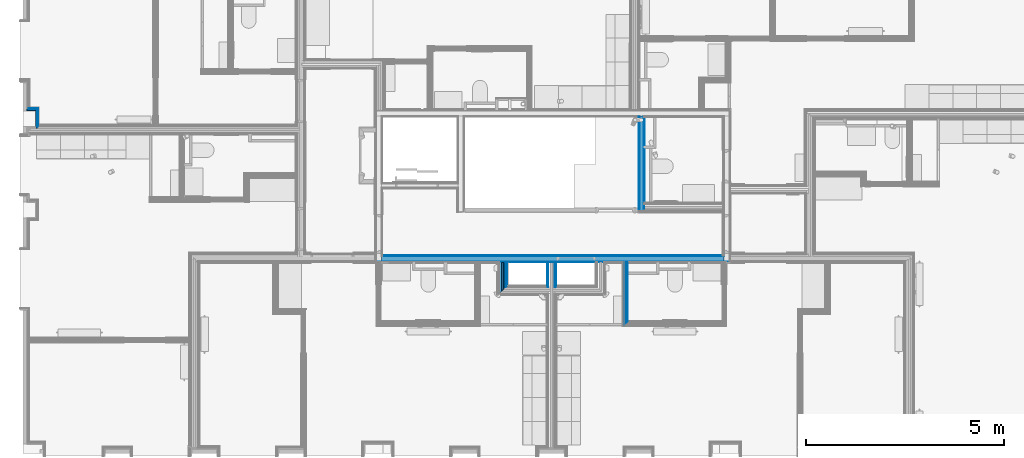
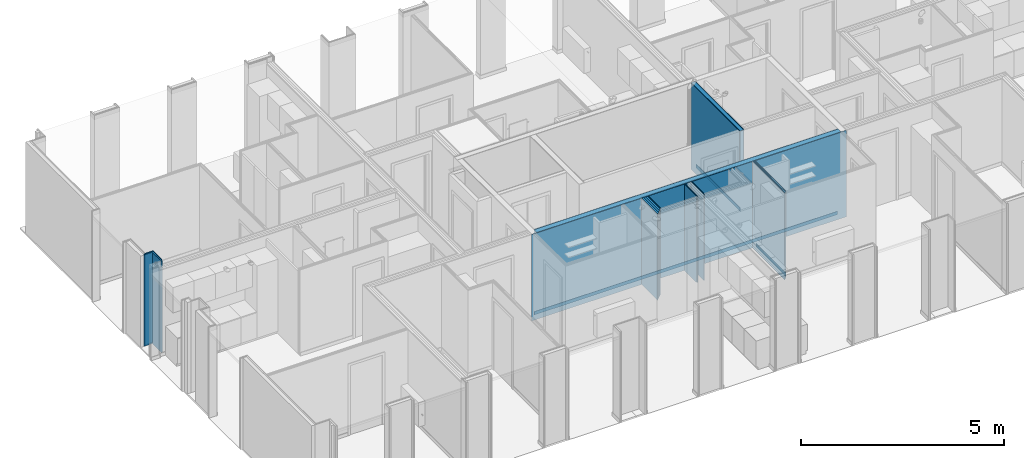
# One storey, part 11 of 85: 28 building element parts, 7 elements without a shape of their own.
"""IFC2X3 building model written with IfcOpenShell, lengths in metres."""

import ifcopenshell
import ifcopenshell.guid

model = None  # the IFC model being written
_history = None  # IfcOwnerHistory: only IFC2X3 demands one
_inside = {}  # id of a spatial element -> (the spatial element, [elements in it])
_under = {}  # id of a project, library or spatial element -> (it, [spatial elements below it])
_declared = {}  # id of a project -> (the project, [libraries it declares])
_typed = {}  # id of a type object -> (the type object, [elements of that type])
_made_of = {}  # id of a material, layer set ... -> (it, [elements and type objects made of it])


def new_model(schema):
    """Start an empty IFC model of exactly this schema.

    Asked for "IFC4X3", IfcOpenShell would pick the latest addendum, in which some entities
    have other attributes; the version numbers below select the first issue.
    IFC2X3 requires an IfcOwnerHistory on every rooted entity: one is made here for all.
    """
    global model, _history
    if schema == "IFC4X3":
        model = ifcopenshell.file(schema_version=(4, 3, 0, 0))
    else:
        model = ifcopenshell.file(schema=schema)
    _inside.clear()
    _under.clear()
    _declared.clear()
    _typed.clear()
    _made_of.clear()
    _history = None
    if model.schema == "IFC2X3":
        org = make("IfcOrganization", Name="unknown")
        user = make(
            "IfcPersonAndOrganization",
            ThePerson=make("IfcPerson", FamilyName="unknown"),
            TheOrganization=org,
        )
        app = make(
            "IfcApplication",
            ApplicationDeveloper=org,
            Version="unknown",
            ApplicationFullName="unknown",
            ApplicationIdentifier="unknown",
        )
        _history = make(
            "IfcOwnerHistory",
            OwningUser=user,
            OwningApplication=app,
            ChangeAction="ADDED",
            CreationDate=0,
        )
    return model


def make(cls, **values):
    """One entity of the class cls with the attributes given. An attribute that is None is left unset."""
    return model.create_entity(
        cls, **{name: value for name, value in values.items() if value is not None}
    )


def entity(cls, *values):
    """Any entity or typed value of the class cls, its attributes in the order of the schema. None: left unset."""
    e = model.create_entity(cls)
    for i, value in enumerate(values):
        if value is not None:
            e[i] = value
    return e


def rooted(cls, **values):
    """An entity with a GlobalId (a new one), such as an element, a storey or a relation."""
    return make(cls, GlobalId=ifcopenshell.guid.new(), OwnerHistory=_history, **values)


def si_unit(unit_type, name, prefix=None):
    """IfcSIUnit, for example si_unit("LENGTHUNIT", "METRE", prefix="MILLI")."""
    return make("IfcSIUnit", UnitType=unit_type, Prefix=prefix, Name=name)


def converted_unit(unit_type, name, factor, base, dimensions=None, offset=None):
    """IfcConversionBasedUnit, such as the inch: factor (a typed value) times the base unit."""
    return make(
        "IfcConversionBasedUnit"
        if offset is None
        else "IfcConversionBasedUnitWithOffset",
        ConversionOffset=offset,
        Dimensions=None
        if dimensions is None
        else entity("IfcDimensionalExponents", *dimensions),
        UnitType=unit_type,
        Name=name,
        ConversionFactor=make(
            "IfcMeasureWithUnit", ValueComponent=factor, UnitComponent=base
        ),
    )


def derived_unit(unit_type, elements):
    """IfcDerivedUnit: a product of units, each with its exponent."""
    return make(
        "IfcDerivedUnit",
        Elements=[
            make("IfcDerivedUnitElement", Unit=unit, Exponent=power)
            for unit, power in elements
        ],
        UnitType=unit_type,
    )


def money_unit(currency):
    """IfcMonetaryUnit."""
    return make("IfcMonetaryUnit", Currency=currency)


def assignment(units):
    """IfcUnitAssignment: the units of a project."""
    return None if units is None else make("IfcUnitAssignment", Units=units)


def point(xyz):
    """IfcCartesianPoint."""
    return None if xyz is None else make("IfcCartesianPoint", Coordinates=xyz)


def direction(xyz):
    """IfcDirection."""
    return None if xyz is None else make("IfcDirection", DirectionRatios=xyz)


def frame(location, z_axis=None, x_axis=None):
    """IfcAxis2Placement3D, a coordinate frame: its origin and axes. An axis left out is left unset."""
    return make(
        "IfcAxis2Placement3D",
        Location=point(location),
        Axis=direction(z_axis),
        RefDirection=direction(x_axis),
    )


def frame_2d(location, x_axis=None):
    """IfcAxis2Placement2D, a coordinate frame in the plane: its origin and x axis."""
    return make(
        "IfcAxis2Placement2D", Location=point(location), RefDirection=direction(x_axis)
    )


def origin_with_axes():
    """The frame at (0, 0, 0) with the z axis (0, 0, 1) and the x axis (1, 0, 0) written out."""
    return frame((0.0, 0.0, 0.0), z_axis=(0.0, 0.0, 1.0), x_axis=(1.0, 0.0, 0.0))


def place(relative_to, where):
    """IfcLocalPlacement: puts the frame where relative to a parent placement (None: the world)."""
    return make(
        "IfcLocalPlacement", PlacementRelTo=relative_to, RelativePlacement=where
    )


def context(
    kind, dimensions, precision=None, world=None, true_north=None, identifier=None
):
    """IfcGeometricRepresentationContext, for example the 3D "Model" context."""
    return make(
        "IfcGeometricRepresentationContext",
        ContextIdentifier=identifier,
        ContextType=kind,
        CoordinateSpaceDimension=dimensions,
        Precision=precision,
        WorldCoordinateSystem=world,
        TrueNorth=true_north,
    )


def subcontext(parent, identifier, kind, view, scale=None):
    """IfcGeometricRepresentationSubContext, for example "Body" below "Model"."""
    return make(
        "IfcGeometricRepresentationSubContext",
        ContextIdentifier=identifier,
        ContextType=kind,
        ParentContext=parent,
        TargetScale=scale,
        TargetView=view,
    )


def project(units=None, contexts=None):
    """IfcProject with its units and contexts."""
    return rooted(
        "IfcProject",
        Name="project",
        RepresentationContexts=contexts,
        UnitsInContext=assignment(units),
    )


def spatial(cls, under=None, at=None, **own):
    """A site, building, storey or space (cls), placed at a placement, below another one or the project."""
    s = rooted(cls, ObjectPlacement=at, **own)
    if under is not None:
        _under.setdefault(under.id(), (under, []))[1].append(s)
    return s


def polyline(points):
    """IfcPolyline through the points."""
    return make("IfcPolyline", Points=[point(p) for p in points])


def profile(cls, at=None, kind="AREA", **sizes):
    """A parametric profile (cls). Its sizes go by their IFC names, for example OverallWidth=200.0."""
    return make(cls, ProfileType=kind, Position=at, **sizes)


def rectangle(**sizes):
    """IfcRectangleProfileDef."""
    return profile("IfcRectangleProfileDef", **sizes)


def outline(outer, holes=None, kind="AREA"):
    """IfcArbitraryClosedProfileDef: a profile drawn as a closed curve; with holes, ...WithVoids."""
    if holes is None:
        return make("IfcArbitraryClosedProfileDef", ProfileType=kind, OuterCurve=outer)
    return make(
        "IfcArbitraryProfileDefWithVoids",
        ProfileType=kind,
        OuterCurve=outer,
        InnerCurves=holes,
    )


def extrude(swept, where, along, depth):
    """IfcExtrudedAreaSolid: the profile swept, set in the frame where, extruded along a direction by depth."""
    return make(
        "IfcExtrudedAreaSolid",
        SweptArea=swept,
        Position=where,
        ExtrudedDirection=direction(along),
        Depth=depth,
    )


def shape(context_of_items, identifier, shape_type, items):
    """IfcShapeRepresentation: the items that make up one representation, for example the "Body"."""
    return make(
        "IfcShapeRepresentation",
        ContextOfItems=context_of_items,
        RepresentationIdentifier=identifier,
        RepresentationType=shape_type,
        Items=items,
    )


def material(Name=None, Category=None):
    """IfcMaterial."""
    return make("IfcMaterial", Name=Name, Category=Category)


def made_of(thing, what):
    """Note that an element or type object is made of a material, layer set ...; save() writes the relation."""
    if what is not None:
        _made_of.setdefault(what.id(), (what, []))[1].append(thing)
    return thing


def type_object(cls, material=None, **own):
    """A type object (cls), such as IfcWallType, which elements share."""
    return made_of(rooted(cls, **own), material)


def element(
    cls,
    number,
    at=None,
    inside=None,
    cuts=None,
    type_object=None,
    material=None,
    context=None,
    identifier="Body",
    shape_type=None,
    held_by="IfcProductDefinitionShape",
    body=None,
    shapes=None,
    **own,
):
    """One element of the class cls, such as IfcWall. Its Tag is "e" and its number.

    at: its placement. inside: the storey or other place that contains it. cuts: it is an
    opening in that element (IfcRelVoidsElement). A single representation is given by context,
    identifier, shape_type and body (its items); several are given by shapes. held_by: the class
    of the entity that holds the representations. save() writes the other relations.
    """
    e = rooted(cls, Tag="e%d" % number, ObjectPlacement=at, **own)
    if body is not None:
        shapes = [shape(context, identifier, shape_type, body)]
    if shapes is not None:
        e.Representation = make(held_by, Representations=shapes)
    if inside is not None:
        _inside.setdefault(inside.id(), (inside, []))[1].append(e)
    if cuts is not None:
        rooted(
            "IfcRelVoidsElement", RelatingBuildingElement=cuts, RelatedOpeningElement=e
        )
    if type_object is not None:
        _typed.setdefault(type_object.id(), (type_object, []))[1].append(e)
    return made_of(e, material)


def aggregate(whole, parts):
    """IfcRelAggregates: a whole, such as a stair, and the parts it consists of."""
    return rooted("IfcRelAggregates", RelatingObject=whole, RelatedObjects=parts)


def save(model, path):
    """Write the relations noted so far, then the file.

    IfcRelAggregates (storeys below a building ...), IfcRelContainedInSpatialStructure (elements
    in a storey), IfcRelDefinesByType, IfcRelAssociatesMaterial and IfcRelDeclares: one each for
    every whole, place, type object, material and project.
    """
    for whole, parts in _under.values():
        aggregate(whole, parts)
    for where, things in _inside.values():
        rooted(
            "IfcRelContainedInSpatialStructure",
            RelatedElements=things,
            RelatingStructure=where,
        )
    for kind, things in _typed.values():
        rooted("IfcRelDefinesByType", RelatedObjects=things, RelatingType=kind)
    for what, things in _made_of.values():
        rooted("IfcRelAssociatesMaterial", RelatedObjects=things, RelatingMaterial=what)
    for by, libraries in _declared.values():
        rooted("IfcRelDeclares", RelatingContext=by, RelatedDefinitions=libraries)
    model.write(path)


model = new_model("IFC2X3")

# Units and contexts
model_context = context("Model", 3, precision=1e-05, world=origin_with_axes(), true_north=direction((0.0, 1.0)))
body_context = subcontext(model_context, "Body", "Model", "MODEL_VIEW", scale=1.0)
ifc_project = project(units=[si_unit("LENGTHUNIT", "METRE"), si_unit("AREAUNIT", "SQUARE_METRE"), si_unit("VOLUMEUNIT", "CUBIC_METRE"), si_unit("ABSORBEDDOSEUNIT", "GRAY"), si_unit("AMOUNTOFSUBSTANCEUNIT", "MOLE"), si_unit("DOSEEQUIVALENTUNIT", "SIEVERT"), si_unit("ELECTRICCAPACITANCEUNIT", "FARAD"), si_unit("ELECTRICCHARGEUNIT", "COULOMB"), si_unit("ELECTRICCONDUCTANCEUNIT", "SIEMENS"), si_unit("ELECTRICCURRENTUNIT", "AMPERE"), si_unit("ELECTRICRESISTANCEUNIT", "OHM"), si_unit("ELECTRICVOLTAGEUNIT", "VOLT"), si_unit("ENERGYUNIT", "JOULE"), si_unit("FORCEUNIT", "NEWTON"), si_unit("FREQUENCYUNIT", "HERTZ"), si_unit("ILLUMINANCEUNIT", "LUX"), si_unit("INDUCTANCEUNIT", "HENRY"), si_unit("LUMINOUSFLUXUNIT", "LUMEN"), si_unit("LUMINOUSINTENSITYUNIT", "CANDELA"), si_unit("MAGNETICFLUXDENSITYUNIT", "TESLA"), si_unit("MAGNETICFLUXUNIT", "WEBER"), si_unit("MASSUNIT", "GRAM"), converted_unit("PLANEANGLEUNIT", "degree", entity("IfcReal", 0.0174532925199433), si_unit("PLANEANGLEUNIT", "RADIAN"), dimensions=[0, 0, 0, 0, 0, 0, 0]), si_unit("POWERUNIT", "WATT"), si_unit("PRESSUREUNIT", "PASCAL"), si_unit("RADIOACTIVITYUNIT", "BECQUEREL"), si_unit("SOLIDANGLEUNIT", "STERADIAN"), si_unit("THERMODYNAMICTEMPERATUREUNIT", "KELVIN"), si_unit("TIMEUNIT", "SECOND"), derived_unit("ACCELERATIONUNIT", [(si_unit("LENGTHUNIT", "METRE"), 1), (si_unit("TIMEUNIT", "SECOND"), -2)]), derived_unit("ANGULARVELOCITYUNIT", [(converted_unit("PLANEANGLEUNIT", "degree", entity("IfcReal", 0.0174532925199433), si_unit("PLANEANGLEUNIT", "RADIAN"), dimensions=[0, 0, 0, 0, 0, 0, 0]), 1), (si_unit("TIMEUNIT", "SECOND"), -1)]), derived_unit("CURVATUREUNIT", [(converted_unit("PLANEANGLEUNIT", "degree", entity("IfcReal", 0.0174532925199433), si_unit("PLANEANGLEUNIT", "RADIAN"), dimensions=[0, 0, 0, 0, 0, 0, 0]), 1), (si_unit("LENGTHUNIT", "METRE"), -1)]), derived_unit("DYNAMICVISCOSITYUNIT", [(si_unit("PRESSUREUNIT", "PASCAL"), 1), (si_unit("TIMEUNIT", "SECOND"), 1)]), derived_unit("HEATFLUXDENSITYUNIT", [(si_unit("POWERUNIT", "WATT"), 1), (si_unit("LENGTHUNIT", "METRE"), -2)]), derived_unit("HEATINGVALUEUNIT", [(si_unit("ENERGYUNIT", "JOULE"), 1), (si_unit("MASSUNIT", "GRAM"), -1)]), derived_unit("INTEGERCOUNTRATEUNIT", [(si_unit("TIMEUNIT", "SECOND"), -1)]), derived_unit("IONCONCENTRATIONUNIT", [(si_unit("MASSUNIT", "GRAM"), 1), (si_unit("VOLUMEUNIT", "CUBIC_METRE"), -1)]), derived_unit("ISOTHERMALMOISTURECAPACITYUNIT", [(si_unit("VOLUMEUNIT", "CUBIC_METRE"), 1), (si_unit("MASSUNIT", "GRAM"), -1)]), derived_unit("KINEMATICVISCOSITYUNIT", [(si_unit("AREAUNIT", "SQUARE_METRE"), 1), (si_unit("TIMEUNIT", "SECOND"), -1)]), derived_unit("LINEARFORCEUNIT", [(si_unit("FORCEUNIT", "NEWTON"), 1), (si_unit("LENGTHUNIT", "METRE"), -1)]), derived_unit("LINEARMOMENTUNIT", [(si_unit("FORCEUNIT", "NEWTON"), 1), (si_unit("LENGTHUNIT", "METRE"), -1)]), derived_unit("LINEARSTIFFNESSUNIT", [(si_unit("FORCEUNIT", "NEWTON"), 1), (si_unit("LENGTHUNIT", "METRE"), -1)]), derived_unit("LINEARVELOCITYUNIT", [(si_unit("LENGTHUNIT", "METRE"), 1), (si_unit("TIMEUNIT", "SECOND"), -1)]), derived_unit("LUMINOUSINTENSITYDISTRIBUTIONUNIT", [(si_unit("LUMINOUSINTENSITYUNIT", "CANDELA"), 1), (si_unit("LUMINOUSFLUXUNIT", "LUMEN"), -1)]), derived_unit("MASSDENSITYUNIT", [(si_unit("MASSUNIT", "GRAM"), 1), (si_unit("VOLUMEUNIT", "CUBIC_METRE"), -1)]), derived_unit("MASSFLOWRATEUNIT", [(si_unit("MASSUNIT", "GRAM"), 1), (si_unit("TIMEUNIT", "SECOND"), -1)]), derived_unit("MASSPERLENGTHUNIT", [(si_unit("MASSUNIT", "GRAM"), 1), (si_unit("LENGTHUNIT", "METRE"), -1)]), derived_unit("MODULUSOFELASTICITYUNIT", [(si_unit("FORCEUNIT", "NEWTON"), 1), (si_unit("AREAUNIT", "SQUARE_METRE"), -1)]), derived_unit("MODULUSOFLINEARSUBGRADEREACTIONUNIT", [(si_unit("FORCEUNIT", "NEWTON"), 1), (si_unit("LENGTHUNIT", "METRE"), -2)]), derived_unit("MODULUSOFROTATIONALSUBGRADEREACTIONUNIT", [(si_unit("FORCEUNIT", "NEWTON"), 1), (si_unit("LENGTHUNIT", "METRE"), 1)]), derived_unit("MODULUSOFSUBGRADEREACTIONUNIT", [(si_unit("FORCEUNIT", "NEWTON"), 1), (si_unit("VOLUMEUNIT", "CUBIC_METRE"), -1)]), derived_unit("MOISTUREDIFFUSIVITYUNIT", [(si_unit("VOLUMEUNIT", "CUBIC_METRE"), 1), (si_unit("TIMEUNIT", "SECOND"), -1)]), derived_unit("MOLECULARWEIGHTUNIT", [(si_unit("MASSUNIT", "GRAM"), 1), (si_unit("AMOUNTOFSUBSTANCEUNIT", "MOLE"), -1)]), derived_unit("PLANARFORCEUNIT", [(si_unit("FORCEUNIT", "NEWTON"), 1), (si_unit("LENGTHUNIT", "METRE"), -2)]), derived_unit("ROTATIONALFREQUENCYUNIT", [(si_unit("TIMEUNIT", "SECOND"), -1)]), derived_unit("ROTATIONALMASSUNIT", [(si_unit("MASSUNIT", "GRAM"), 1), (si_unit("LENGTHUNIT", "METRE"), 2)]), derived_unit("ROTATIONALSTIFFNESSUNIT", [(si_unit("FORCEUNIT", "NEWTON"), 1), (si_unit("LENGTHUNIT", "METRE"), 1), (converted_unit("PLANEANGLEUNIT", "degree", entity("IfcReal", 0.0174532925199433), si_unit("PLANEANGLEUNIT", "RADIAN"), dimensions=[0, 0, 0, 0, 0, 0, 0]), -1)]), derived_unit("SECTIONAREAINTEGRALUNIT", [(si_unit("LENGTHUNIT", "METRE"), 5)]), derived_unit("SECTIONMODULUSUNIT", [(si_unit("LENGTHUNIT", "METRE"), 3)]), derived_unit("SHEARMODULUSUNIT", [(si_unit("FORCEUNIT", "NEWTON"), 1), (si_unit("AREAUNIT", "SQUARE_METRE"), -1)]), derived_unit("SOUNDPOWERUNIT", [(si_unit("ENERGYUNIT", "JOULE"), 1), (si_unit("TIMEUNIT", "SECOND"), -1)]), derived_unit("SPECIFICHEATCAPACITYUNIT", [(si_unit("FORCEUNIT", "NEWTON"), 1), (si_unit("MASSUNIT", "GRAM"), -1), (si_unit("THERMODYNAMICTEMPERATUREUNIT", "KELVIN"), -1)]), derived_unit("TEMPERATUREGRADIENTUNIT", [(si_unit("THERMODYNAMICTEMPERATUREUNIT", "KELVIN"), 1), (si_unit("LENGTHUNIT", "METRE"), -1)]), derived_unit("THERMALADMITTANCEUNIT", [(si_unit("POWERUNIT", "WATT"), 1), (si_unit("AREAUNIT", "SQUARE_METRE"), -1), (si_unit("THERMODYNAMICTEMPERATUREUNIT", "KELVIN"), -1)]), derived_unit("THERMALCONDUCTANCEUNIT", [(si_unit("POWERUNIT", "WATT"), 1), (si_unit("LENGTHUNIT", "METRE"), -1), (si_unit("THERMODYNAMICTEMPERATUREUNIT", "KELVIN"), -1)]), derived_unit("THERMALEXPANSIONCOEFFICIENTUNIT", [(si_unit("THERMODYNAMICTEMPERATUREUNIT", "KELVIN"), -1)]), derived_unit("THERMALRESISTANCEUNIT", [(si_unit("AREAUNIT", "SQUARE_METRE"), 1), (si_unit("POWERUNIT", "WATT"), -1)]), derived_unit("THERMALTRANSMITTANCEUNIT", [(si_unit("POWERUNIT", "WATT"), 1), (si_unit("AREAUNIT", "SQUARE_METRE"), -1), (si_unit("THERMODYNAMICTEMPERATUREUNIT", "KELVIN"), -1)]), derived_unit("TORQUEUNIT", [(si_unit("FORCEUNIT", "NEWTON"), 1), (si_unit("LENGTHUNIT", "METRE"), 1)]), derived_unit("VAPORPERMEABILITYUNIT", [(si_unit("MASSUNIT", "GRAM"), 1), (si_unit("TIMEUNIT", "SECOND"), -1)]), derived_unit("VOLUMETRICFLOWRATEUNIT", [(si_unit("VOLUMEUNIT", "CUBIC_METRE"), 1), (si_unit("TIMEUNIT", "SECOND"), -1)]), derived_unit("WARPINGCONSTANTUNIT", [(si_unit("LENGTHUNIT", "METRE"), 6)]), derived_unit("WARPINGMOMENTUNIT", [(si_unit("FORCEUNIT", "NEWTON"), 1), (si_unit("LENGTHUNIT", "METRE"), 2)]), money_unit("GBP")], contexts=[model_context])

# Site, building, storey
site_placement = place(None, origin_with_axes())
site = spatial("IfcSite", under=ifc_project, at=site_placement, Name="Site", CompositionType="ELEMENT")
building_placement = place(site_placement, origin_with_axes())
building = spatial("IfcBuilding", under=site, at=building_placement, Name="Building01", CompositionType="ELEMENT")
storey_placement = place(building_placement, frame((0.0, 0.0, 12.13), z_axis=(0.0, 0.0, 1.0), x_axis=(1.0, 0.0, 0.0)))
storey = spatial("IfcBuildingStorey", under=building, at=storey_placement, Name="3F", CompositionType="ELEMENT", Elevation=12.13)

# Wall, building element parts
wall_type_1 = type_object("IfcWallType", Name="SHE_A-Walls_Type01c_Partywall_225mm_twin_tall", PredefinedType="NOTDEFINED")
wall_1_placement = place(storey_placement, frame((13.5005, 4.995, 0.0), z_axis=(0.0, 0.0, 1.0), x_axis=(0.0, -1.0, 0.0)))
wall_1 = element("IfcWall", 1, at=wall_1_placement, inside=storey, type_object=wall_type_1, Name="1C", ObjectType="SHE_A-Walls_Type01c_Partywall_225mm_twin_tall")
ifc_material_1 = material(Name="A_BSUK_WallInternal_Finishes_Plasterboard")
placement_1 = place(wall_1_placement, origin_with_axes())
building_element_part_1 = element("IfcBuildingElementPart", 2, at=placement_1, material=ifc_material_1, Name="2", context=body_context, shape_type="SweptSolid", body=[
    extrude(rectangle(XDim=0.590572, YDim=0.015, at=frame_2d((0.310286, -0.1055), x_axis=(-1.0, 0.0))), origin_with_axes(), (0.0, 0.0, 1.0), 2.59),
])
building_element_part_2 = element("IfcBuildingElementPart", 3, at=placement_1, material=ifc_material_1, Name="4", context=body_context, shape_type="SweptSolid", body=[
    extrude(rectangle(XDim=0.620572, YDim=0.015, at=frame_2d((0.325286, -0.0905), x_axis=(-1.0, 0.0))), origin_with_axes(), (0.0, 0.0, 1.0), 2.59),
])
building_element_part_3 = element("IfcBuildingElementPart", 4, at=placement_1, material=ifc_material_1, Name="9", context=body_context, shape_type="SweptSolid", body=[
    extrude(rectangle(XDim=0.620572, YDim=0.015, at=frame_2d((0.325286, 0.0895), x_axis=(-1.0, 0.0))), origin_with_axes(), (0.0, 0.0, 1.0), 2.59),
])
building_element_part_4 = element("IfcBuildingElementPart", 5, at=placement_1, material=ifc_material_1, Name="11", context=body_context, shape_type="SweptSolid", body=[
    extrude(rectangle(XDim=0.590572, YDim=0.015, at=frame_2d((0.310286, 0.1045), x_axis=(-1.0, 0.0))), origin_with_axes(), (0.0, 0.0, 1.0), 2.59),
])
aggregate(wall_1, [building_element_part_1, building_element_part_2, building_element_part_3, building_element_part_4])

wall_2_placement = place(storey_placement, frame((12.288, 4.98, 0.0), z_axis=(0.0, 0.0, 1.0), x_axis=(0.0, -1.0, 0.0)))
wall_2 = element("IfcWall", 6, at=wall_2_placement, inside=storey, type_object=wall_type_1, Name="1C", ObjectType="SHE_A-Walls_Type01c_Partywall_225mm_twin_tall")
ifc_material_2 = material(Name="Air Cavity")
placement_2 = place(wall_2_placement, origin_with_axes())
building_element_part_5 = element("IfcBuildingElementPart", 7, at=placement_2, material=ifc_material_2, Name="5", context=body_context, shape_type="SweptSolid", body=[
    extrude(outline(polyline([(0.727572, -0.05), (0.0, -0.05), (0.0, -0.108), (0.785572, -0.108), (0.727572, -0.05)])), origin_with_axes(), (0.0, 0.0, 1.0), 2.59),
])
ifc_material_3 = material(Name="A_BSUK_Insulation")
building_element_part_6 = element("IfcBuildingElementPart", 8, at=placement_2, material=ifc_material_3, Name="6", context=body_context, shape_type="SweptSolid", body=[
    extrude(outline(polyline([(0.677572, 0.0), (0.0, 0.0), (0.0, -0.05), (0.727572, -0.05), (0.677572, 0.0)])), origin_with_axes(), (0.0, 0.0, 1.0), 2.59),
])
building_element_part_7 = element("IfcBuildingElementPart", 9, at=placement_2, material=ifc_material_2, Name="7", context=body_context, shape_type="SweptSolid", body=[
    extrude(outline(polyline([(0.620572, 0.057), (0.0, 0.057), (0.0, 0.0), (0.677572, 0.0), (0.620572, 0.057)])), origin_with_axes(), (0.0, 0.0, 1.0), 2.59),
])
building_element_part_8 = element("IfcBuildingElementPart", 10, at=placement_2, material=ifc_material_1, Name="8", context=body_context, shape_type="SweptSolid", body=[
    extrude(outline(polyline([(0.605572, 0.072), (0.0, 0.072), (0.0, 0.057), (0.620572, 0.057), (0.605572, 0.072)])), origin_with_axes(), (0.0, 0.0, 1.0), 2.59),
])
building_element_part_9 = element("IfcBuildingElementPart", 11, at=placement_2, material=ifc_material_1, Name="9", context=body_context, shape_type="SweptSolid", body=[
    extrude(outline(polyline([(0.590572, 0.087), (0.0, 0.087), (0.0, 0.072), (0.605572, 0.072), (0.590572, 0.087)])), origin_with_axes(), (0.0, 0.0, 1.0), 2.59),
])
aggregate(wall_2, [building_element_part_5, building_element_part_6, building_element_part_7, building_element_part_8, building_element_part_9])

wall_type_2 = type_object("IfcWallType", Name="SHE_A-Walls_Type04a_BlockworkWall_130mm", PredefinedType="NOTDEFINED")
wall_3_placement = place(storey_placement, frame((15.715, 8.665, 0.0), z_axis=(0.0, 0.0, 1.0), x_axis=(0.0, -1.0, 0.0)))
wall_3 = element("IfcWall", 12, at=wall_3_placement, inside=storey, type_object=wall_type_2, Name="4A", ObjectType="SHE_A-Walls_Type04a_BlockworkWall_130mm")
placement_3 = place(wall_3_placement, origin_with_axes())
building_element_part_10 = element("IfcBuildingElementPart", 13, at=placement_3, material=ifc_material_1, Name="2", context=body_context, shape_type="SweptSolid", body=[
    extrude(rectangle(XDim=2.385, YDim=0.015, at=frame_2d((1.2075, -0.0075), x_axis=(-1.0, 0.0))), origin_with_axes(), (0.0, 0.0, 1.0), 2.59),
])
ifc_material_4 = material(Name="A_BSUK_WallsInternal_Block")
building_element_part_11 = element("IfcBuildingElementPart", 14, at=placement_3, material=ifc_material_4, Name="3", context=body_context, shape_type="SweptSolid", body=[
    extrude(rectangle(XDim=0.1, YDim=2.4, at=frame_2d((1.2, 0.05), x_axis=(0.0, -1.0))), origin_with_axes(), (0.0, 0.0, 1.0), 2.59),
])
ifc_material_5 = material(Name="A_BSUK_WallInternal_Finishes_Plaster")
building_element_part_12 = element("IfcBuildingElementPart", 15, at=placement_3, material=ifc_material_5, Name="4", context=body_context, shape_type="SweptSolid", body=[
    extrude(rectangle(XDim=0.015, YDim=2.4, at=frame_2d((1.2, 0.1075), x_axis=(0.0, -1.0))), origin_with_axes(), (0.0, 0.0, 1.0), 2.59),
])
ifc_material_6 = material(Name="A_BSUK_Walls_Timber")
building_element_part_13 = element("IfcBuildingElementPart", 16, at=placement_3, material=ifc_material_6, Name="5", context=body_context, shape_type="SweptSolid", body=[
    extrude(outline(polyline([(2.19, 0.13), (0.03, 0.13), (0.03, 0.115), (2.205, 0.115), (2.19, 0.13)])), frame((0.0, 0.0, 0.015), z_axis=(0.0, 0.0, 1.0), x_axis=(1.0, 0.0, 0.0)), (0.0, 0.0, 1.0), 0.1),
])
aggregate(wall_3, [building_element_part_10, building_element_part_11, building_element_part_12, building_element_part_13])

wall_type_3 = type_object("IfcWallType", Name="SHE_A-Walls_Type05a_Partition_95mm_tall", PredefinedType="NOTDEFINED")
wall_4_placement = place(storey_placement, frame((15.3475, 3.42, 0.0), z_axis=(0.0, 0.0, 1.0), x_axis=(0.0, 1.0, 0.0)))
wall_4 = element("IfcWall", 17, at=wall_4_placement, inside=storey, type_object=wall_type_3, Name="5A", ObjectType="SHE_A-Walls_Type05a_Partition_95mm_tall")
placement_4 = place(wall_4_placement, origin_with_axes())
building_element_part_14 = element("IfcBuildingElementPart", 18, at=placement_4, material=ifc_material_6, Name="1", context=body_context, shape_type="SweptSolid", body=[
    extrude(outline(polyline([(1.545, -0.06), (0.06, -0.06), (0.075, -0.075), (1.545, -0.075), (1.545, -0.06)])), frame((0.0, 0.0, 0.015), z_axis=(0.0, 0.0, 1.0), x_axis=(1.0, 0.0, 0.0)), (0.0, 0.0, 1.0), 0.1),
])
building_element_part_15 = element("IfcBuildingElementPart", 19, at=placement_4, material=ifc_material_1, Name="2", context=body_context, shape_type="SweptSolid", body=[
    extrude(outline(polyline([(1.56, -0.048), (0.048, -0.048), (0.06, -0.06), (1.56, -0.06), (1.56, -0.048)])), origin_with_axes(), (0.0, 0.0, 1.0), 2.59),
])
building_element_part_16 = element("IfcBuildingElementPart", 20, at=placement_4, material=ifc_material_2, Name="3", context=body_context, shape_type="SweptSolid", body=[
    extrude(outline(polyline([(1.56, -0.025), (0.025, -0.025), (0.048, -0.048), (1.56, -0.048), (1.56, -0.025)])), origin_with_axes(), (0.0, 0.0, 1.0), 2.59),
])
building_element_part_17 = element("IfcBuildingElementPart", 21, at=placement_4, material=ifc_material_3, Name="4", context=body_context, shape_type="SweptSolid", body=[
    extrude(outline(polyline([(1.56, 0.0), (0.0, 0.0), (0.025, -0.025), (1.56, -0.025), (1.56, 0.0)])), origin_with_axes(), (0.0, 0.0, 1.0), 2.59),
])
building_element_part_18 = element("IfcBuildingElementPart", 22, at=placement_4, material=ifc_material_2, Name="5", context=body_context, shape_type="SweptSolid", body=[
    extrude(outline(polyline([(1.56, 0.023), (-0.023, 0.023), (0.0, 0.0), (1.56, 0.0), (1.56, 0.023)])), origin_with_axes(), (0.0, 0.0, 1.0), 2.59),
])
aggregate(wall_4, [building_element_part_14, building_element_part_15, building_element_part_16, building_element_part_17, building_element_part_18])

wall_type_4 = type_object("IfcWallType", Name="SHE_A-Walls_Type03a_BlockworkWall_170mm", PredefinedType="NOTDEFINED")
wall_5_placement = place(storey_placement, frame((9.215, 4.995, 0.0), z_axis=(0.0, 0.0, 1.0), x_axis=(1.0, 0.0, 0.0)))
wall_5 = element("IfcWall", 23, at=wall_5_placement, inside=storey, type_object=wall_type_4, Name="4B", ObjectType="SHE_A-Walls_Type03a_BlockworkWall_170mm")
placement_5 = place(wall_5_placement, origin_with_axes())
building_element_part_19 = element("IfcBuildingElementPart", 24, at=placement_5, material=ifc_material_1, Name="7", context=body_context, shape_type="SweptSolid", body=[
    extrude(rectangle(XDim=8.925, YDim=0.015, at=frame_2d((4.3075, -0.0075), x_axis=(-1.0, 0.0))), origin_with_axes(), (0.0, 0.0, 1.0), 2.59),
])
building_element_part_20 = element("IfcBuildingElementPart", 25, at=placement_5, material=ifc_material_4, Name="8", context=body_context, shape_type="SweptSolid", body=[
    extrude(rectangle(XDim=8.63, YDim=0.14, at=frame_2d((4.315, 0.07), x_axis=(-1.0, 0.0))), origin_with_axes(), (0.0, 0.0, 1.0), 2.59),
])
building_element_part_21 = element("IfcBuildingElementPart", 26, at=placement_5, material=ifc_material_5, Name="9", context=body_context, shape_type="SweptSolid", body=[
    extrude(rectangle(XDim=8.615, YDim=0.015, at=frame_2d((4.3225, 0.1475), x_axis=(-1.0, 0.0))), origin_with_axes(), (0.0, 0.0, 1.0), 2.59),
])
building_element_part_22 = element("IfcBuildingElementPart", 27, at=placement_5, material=ifc_material_6, Name="10", context=body_context, shape_type="SweptSolid", body=[
    extrude(rectangle(XDim=8.6, YDim=0.015, at=frame_2d((4.315, 0.1625), x_axis=(-1.0, 0.0))), frame((0.0, 0.0, 0.015), z_axis=(0.0, 0.0, 1.0), x_axis=(1.0, 0.0, 0.0)), (0.0, 0.0, 1.0), 0.1),
])
aggregate(wall_5, [building_element_part_19, building_element_part_20, building_element_part_21, building_element_part_22])

wall_type_5 = type_object("IfcWallType", Name="SHE_A-Walls_Type06f_ExternalWallInsulation_48+15mm", PredefinedType="NOTDEFINED")
wall_6_placement = place(storey_placement, frame((0.499178, 8.361548, 0.0), z_axis=(0.0, 0.0, 1.0), x_axis=(0.0, 1.0, 0.0)))
wall_6 = element("IfcWall", 28, at=wall_6_placement, inside=storey, type_object=wall_type_5, Name="6F", ObjectType="SHE_A-Walls_Type06f_ExternalWallInsulation_48+15mm")
placement_6 = place(wall_6_placement, origin_with_axes())
building_element_part_23 = element("IfcBuildingElementPart", 29, at=placement_6, material=ifc_material_1, Name="2", context=body_context, shape_type="SweptSolid", body=[
    extrude(outline(polyline([(0.486452, -0.048), (0.059121, -0.048), (0.059121, -0.063), (0.501452, -0.063), (0.486452, -0.048)])), origin_with_axes(), (0.0, 0.0, 1.0), 2.74),
])
building_element_part_24 = element("IfcBuildingElementPart", 30, at=placement_6, material=ifc_material_1, Name="3", context=body_context, shape_type="SweptSolid", body=[
    extrude(rectangle(XDim=0.44233, YDim=0.012, at=frame_2d((0.265287, -0.042), x_axis=(-1.0, 0.0))), origin_with_axes(), (0.0, 0.0, 1.0), 2.74),
])
building_element_part_25 = element("IfcBuildingElementPart", 31, at=placement_6, material=ifc_material_3, Name="4", context=body_context, shape_type="SweptSolid", body=[
    extrude(rectangle(XDim=0.474452, YDim=0.036, at=frame_2d((0.237226, -0.018), x_axis=(-1.0, 0.0))), origin_with_axes(), (0.0, 0.0, 1.0), 2.74),
])
aggregate(wall_6, [building_element_part_23, building_element_part_24, building_element_part_25])

wall_7_placement = place(storey_placement, frame((0.27, 8.8, 0.0), z_axis=(0.0, 0.0, 1.0), x_axis=(1.0, 0.0, 0.0)))
wall_7 = element("IfcWall", 32, at=wall_7_placement, inside=storey, type_object=wall_type_5, Name="6F", ObjectType="SHE_A-Walls_Type06f_ExternalWallInsulation_48+15mm")
placement_7 = place(wall_7_placement, origin_with_axes())
building_element_part_26 = element("IfcBuildingElementPart", 33, at=placement_7, material=ifc_material_3, Name="1", context=body_context, shape_type="SweptSolid", body=[
    extrude(rectangle(XDim=0.229178, YDim=0.036, at=frame_2d((0.114589, 0.018), x_axis=(-1.0, 0.0))), origin_with_axes(), (0.0, 0.0, 1.0), 2.74),
])
building_element_part_27 = element("IfcBuildingElementPart", 34, at=placement_7, material=ifc_material_1, Name="2", context=body_context, shape_type="SweptSolid", body=[
    extrude(rectangle(XDim=0.217178, YDim=0.012, at=frame_2d((0.156589, 0.042), x_axis=(-1.0, 0.0))), origin_with_axes(), (0.0, 0.0, 1.0), 2.74),
])
building_element_part_28 = element("IfcBuildingElementPart", 35, at=placement_7, material=ifc_material_1, Name="3", context=body_context, shape_type="SweptSolid", body=[
    extrude(outline(polyline([(0.292178, 0.063), (0.048, 0.063), (0.048, 0.048), (0.277178, 0.048), (0.292178, 0.063)])), origin_with_axes(), (0.0, 0.0, 1.0), 2.74),
])
aggregate(wall_7, [building_element_part_26, building_element_part_27, building_element_part_28])

save(model, "model.ifc")
